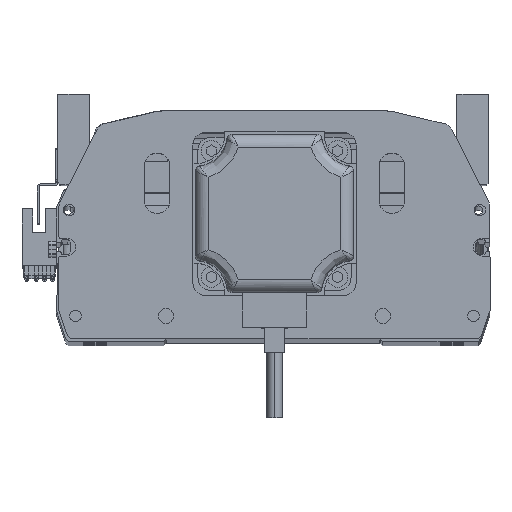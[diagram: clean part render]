
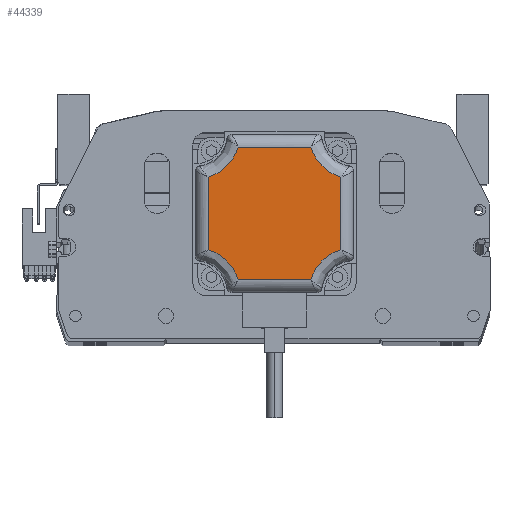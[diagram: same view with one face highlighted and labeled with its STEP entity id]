
A CAD part, top view. The second image highlights one B-rep face of the part: STEP entity #44339.
In plain terms, the highlighted planar face has unit normal (0, 0, 1) as drawn and (0, 0, -1) by its records, which use the part's own axes.
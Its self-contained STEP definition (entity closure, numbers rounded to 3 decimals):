
#1217 = EDGE_CURVE ( 'NONE', #35609, #30227, #27271, .T. ) ;
#2445 = CARTESIAN_POINT ( 'NONE',  ( -20.219, 15.953, -116.5 ) ) ;
#5423 = CARTESIAN_POINT ( 'NONE',  ( -26., 15.5, -116.5 ) ) ;
#5871 = VECTOR ( 'NONE', #25769, 1000. ) ;
#5963 = EDGE_CURVE ( 'NONE', #41399, #31911, #40285, .T. ) ;
#6663 = CARTESIAN_POINT ( 'NONE',  ( -26., 14.229, -116.5 ) ) ;
#7399 = EDGE_LOOP ( 'NONE', ( #26501, #24439, #41897, #32293, #8132, #11182, #14135, #40232 ) ) ;
#7528 = CARTESIAN_POINT ( 'NONE',  ( 26., -14.229, -116.5 ) ) ;
#8132 = ORIENTED_EDGE ( 'NONE', *, *, #30552, .F. ) ;
#8862 = EDGE_CURVE ( 'NONE', #46876, #35609, #30887, .T. ) ;
#9026 = LINE ( 'NONE', #27564, #46451 ) ;
#9827 = DIRECTION ( 'NONE',  ( 0., -1., 0. ) ) ;
#10244 = CARTESIAN_POINT ( 'NONE',  ( -14.229, 26., -116.5 ) ) ;
#11182 = ORIENTED_EDGE ( 'NONE', *, *, #13891, .F. ) ;
#11451 = CARTESIAN_POINT ( 'NONE',  ( 14.229, -26., -116.5 ) ) ;
#12413 = VERTEX_POINT ( 'NONE', #16083 ) ;
#12496 = CARTESIAN_POINT ( 'NONE',  ( 26., 14.229, -116.5 ) ) ;
#13043 = EDGE_CURVE ( 'NONE', #31911, #33289, #38612, .T. ) ;
#13787 = LINE ( 'NONE', #34209, #5871 ) ;
#13891 = EDGE_CURVE ( 'NONE', #33289, #12413, #13787, .T. ) ;
#14135 = ORIENTED_EDGE ( 'NONE', *, *, #13043, .F. ) ;
#14290 = CARTESIAN_POINT ( 'NONE',  ( 14.229, 26., -116.5 ) ) ;
#14660 = CARTESIAN_POINT ( 'NONE',  ( 20.219, 15.953, -116.5 ) ) ;
#15237 = VECTOR ( 'NONE', #42514, 1000. ) ;
#15472 = CARTESIAN_POINT ( 'NONE',  ( -26., -14.229, -116.5 ) ) ;
#15784 = CARTESIAN_POINT ( 'NONE',  ( 26., -14.229, -116.5 ) ) ;
#16083 = CARTESIAN_POINT ( 'NONE',  ( 14.229, -26., -116.5 ) ) ;
#16327 =( BOUNDED_CURVE ( )  B_SPLINE_CURVE ( 3, ( #10244, #49027, #2445, #6663 ),
 .UNSPECIFIED., .F., .F. ) 
 B_SPLINE_CURVE_WITH_KNOTS ( ( 4, 4 ),
 ( 0., 1. ),
 .UNSPECIFIED. ) 
 CURVE ( )  GEOMETRIC_REPRESENTATION_ITEM ( )  RATIONAL_B_SPLINE_CURVE ( ( 1., 0.92, 0.92, 1. ) ) 
 REPRESENTATION_ITEM ( '' )  );
#17754 = CARTESIAN_POINT ( 'NONE',  ( -26., 14.229, -116.5 ) ) ;
#21775 = CARTESIAN_POINT ( 'NONE',  ( 14.229, 26., -116.5 ) ) ;
#22182 = VECTOR ( 'NONE', #9827, 1000. ) ;
#22536 = DIRECTION ( 'NONE',  ( 1., 0., 0. ) ) ;
#22757 = CARTESIAN_POINT ( 'NONE',  ( 20.219, -15.953, -116.5 ) ) ;
#24439 = ORIENTED_EDGE ( 'NONE', *, *, #1217, .F. ) ;
#25352 = VERTEX_POINT ( 'NONE', #15784 ) ;
#25769 = DIRECTION ( 'NONE',  ( 1., 0., 0. ) ) ;
#25902 = EDGE_CURVE ( 'NONE', #30227, #41399, #16327, .T. ) ;
#26129 = CARTESIAN_POINT ( 'NONE',  ( 15.953, -20.219, -116.5 ) ) ;
#26444 =( BOUNDED_CURVE ( )  B_SPLINE_CURVE ( 3, ( #11451, #26129, #22757, #7528 ),
 .UNSPECIFIED., .F., .F. ) 
 B_SPLINE_CURVE_WITH_KNOTS ( ( 4, 4 ),
 ( 0., 1. ),
 .UNSPECIFIED. ) 
 CURVE ( )  GEOMETRIC_REPRESENTATION_ITEM ( )  RATIONAL_B_SPLINE_CURVE ( ( 1., 0.92, 0.92, 1. ) ) 
 REPRESENTATION_ITEM ( '' )  );
#26501 = ORIENTED_EDGE ( 'NONE', *, *, #25902, .F. ) ;
#26561 = CARTESIAN_POINT ( 'NONE',  ( -15.953, -20.219, -116.5 ) ) ;
#27271 = LINE ( 'NONE', #34114, #15237 ) ;
#27564 = CARTESIAN_POINT ( 'NONE',  ( 26., -15.5, -116.5 ) ) ;
#28406 = FACE_OUTER_BOUND ( 'NONE', #7399, .T. ) ;
#30110 = AXIS2_PLACEMENT_3D ( 'NONE', #33708, #34028, #22536 ) ;
#30227 = VERTEX_POINT ( 'NONE', #36473 ) ;
#30552 = EDGE_CURVE ( 'NONE', #12413, #25352, #26444, .T. ) ;
#30887 =( BOUNDED_CURVE ( )  B_SPLINE_CURVE ( 3, ( #43665, #14660, #45347, #21775 ),
 .UNSPECIFIED., .F., .F. ) 
 B_SPLINE_CURVE_WITH_KNOTS ( ( 4, 4 ),
 ( 0., 1. ),
 .UNSPECIFIED. ) 
 CURVE ( )  GEOMETRIC_REPRESENTATION_ITEM ( )  RATIONAL_B_SPLINE_CURVE ( ( 1., 0.92, 0.92, 1. ) ) 
 REPRESENTATION_ITEM ( '' )  );
#31469 = DIRECTION ( 'NONE',  ( 0., 1., 0. ) ) ;
#31911 = VERTEX_POINT ( 'NONE', #15472 ) ;
#32293 = ORIENTED_EDGE ( 'NONE', *, *, #44639, .F. ) ;
#32803 = CARTESIAN_POINT ( 'NONE',  ( -14.229, -26., -116.5 ) ) ;
#33289 = VERTEX_POINT ( 'NONE', #32803 ) ;
#33707 = CARTESIAN_POINT ( 'NONE',  ( -20.219, -15.953, -116.5 ) ) ;
#33708 = CARTESIAN_POINT ( 'NONE',  ( 0., 0., -116.5 ) ) ;
#33866 = CARTESIAN_POINT ( 'NONE',  ( -26., -14.229, -116.5 ) ) ;
#34028 = DIRECTION ( 'NONE',  ( 0., 0., 1. ) ) ;
#34114 = CARTESIAN_POINT ( 'NONE',  ( 15.5, 26., -116.5 ) ) ;
#34209 = CARTESIAN_POINT ( 'NONE',  ( -15.5, -26., -116.5 ) ) ;
#35609 = VERTEX_POINT ( 'NONE', #14290 ) ;
#36473 = CARTESIAN_POINT ( 'NONE',  ( -14.229, 26., -116.5 ) ) ;
#38081 = CARTESIAN_POINT ( 'NONE',  ( -14.229, -26., -116.5 ) ) ;
#38612 =( BOUNDED_CURVE ( )  B_SPLINE_CURVE ( 3, ( #33866, #33707, #26561, #38081 ),
 .UNSPECIFIED., .F., .T. ) 
 B_SPLINE_CURVE_WITH_KNOTS ( ( 4, 4 ),
 ( 0., 1. ),
 .UNSPECIFIED. ) 
 CURVE ( )  GEOMETRIC_REPRESENTATION_ITEM ( )  RATIONAL_B_SPLINE_CURVE ( ( 1., 0.92, 0.92, 1. ) ) 
 REPRESENTATION_ITEM ( '' )  );
#40232 = ORIENTED_EDGE ( 'NONE', *, *, #5963, .F. ) ;
#40285 = LINE ( 'NONE', #5423, #22182 ) ;
#41399 = VERTEX_POINT ( 'NONE', #17754 ) ;
#41627 = PLANE ( 'NONE',  #30110 ) ;
#41897 = ORIENTED_EDGE ( 'NONE', *, *, #8862, .F. ) ;
#42514 = DIRECTION ( 'NONE',  ( -1., 0., 0. ) ) ;
#43665 = CARTESIAN_POINT ( 'NONE',  ( 26., 14.229, -116.5 ) ) ;
#44339 = ADVANCED_FACE ( 'NONE', ( #28406 ), #41627, .F. ) ;
#44639 = EDGE_CURVE ( 'NONE', #25352, #46876, #9026, .T. ) ;
#45347 = CARTESIAN_POINT ( 'NONE',  ( 15.953, 20.219, -116.5 ) ) ;
#46451 = VECTOR ( 'NONE', #31469, 1000. ) ;
#46876 = VERTEX_POINT ( 'NONE', #12496 ) ;
#49027 = CARTESIAN_POINT ( 'NONE',  ( -15.953, 20.219, -116.5 ) ) ;
